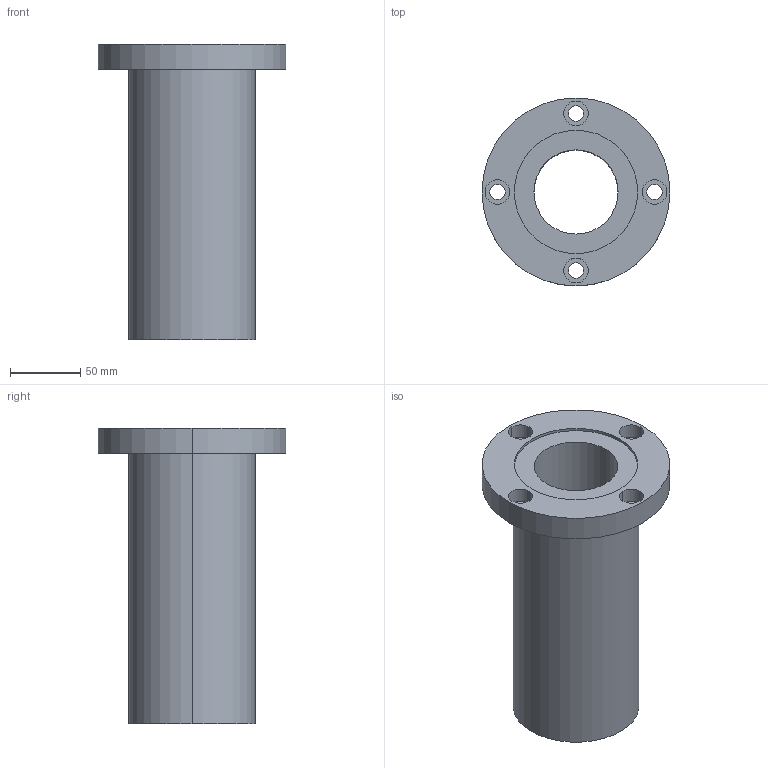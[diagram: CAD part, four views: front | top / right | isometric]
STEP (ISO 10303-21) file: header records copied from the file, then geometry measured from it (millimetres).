
FILE_DESCRIPTION((''),'2;1');
FILE_NAME('C:\Documents and Settings\ｿﾀﾀ蠑ｷ1\ｹﾙﾅﾁ ﾈｭｸ饅\ｺﾎﾇｰﾆﾄﾀﾏ\ﾁｦﾇｰ\LMEF__LUU\LMEF60LUU.stp','2005-06-15T10:55:17',('ｿﾀﾀ蠑ｷ1'),(''),'Autodesk Inventor 9','Autodesk Inventor 9','');
FILE_SCHEMA(('AUTOMOTIVE_DESIGN { 1 0 10303 214 1 1 1 1 }'));
Length unit declared in the file: millimetre
Products named in the file (1): LMEF__(L)
Bounding box: 134 x 134 x 211 mm (x, y, z)
Volume: 858926.2 mm3; surface area: 127431.3 mm2
Topology: 1 solids, 1 shells, 35 faces, 78 edges, 52 vertices
Faces by surface type: bspline 20, cylinder 10, plane 5
Entity records: 1255 total; most frequent: CARTESIAN_POINT 450, DIRECTION 162, ORIENTED_EDGE 156, EDGE_CURVE 78, AXIS2_PLACEMENT_3D 68, VERTEX_POINT 52, CIRCLE 52, EDGE_LOOP 52
